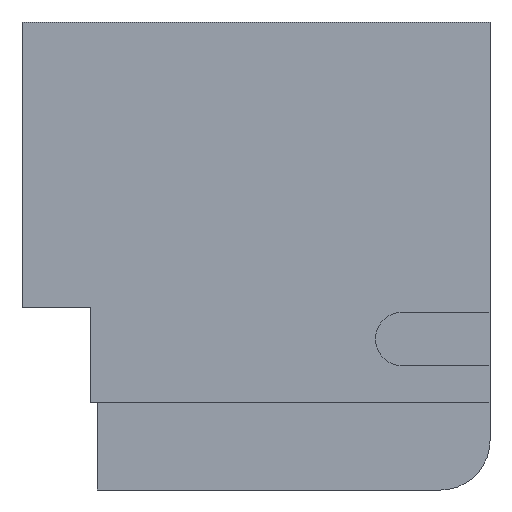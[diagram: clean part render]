
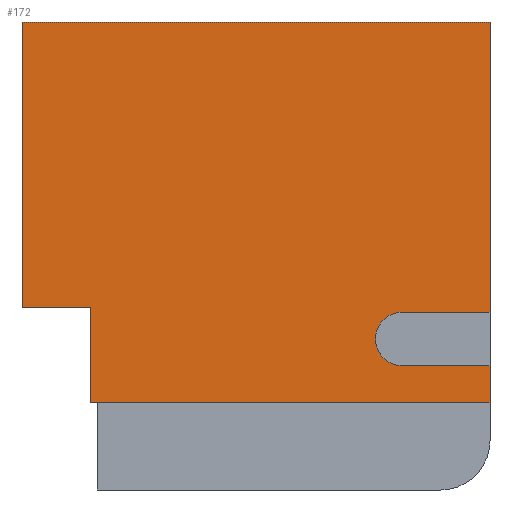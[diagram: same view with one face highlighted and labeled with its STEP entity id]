
A CAD part, front view. The second image highlights one B-rep face of the part: STEP entity #172.
In plain terms, the highlighted planar face has unit normal (0, -1, 0).
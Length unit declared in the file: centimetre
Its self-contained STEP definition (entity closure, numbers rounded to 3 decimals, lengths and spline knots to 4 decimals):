
#9 = CARTESIAN_POINT ( 'NONE',  ( 1000., 0., 1000. ) ) ;
#29 = DIRECTION ( 'NONE',  ( -1., 0., 0. ) ) ;
#31 = DIRECTION ( 'NONE',  ( -1., 0., 0. ) ) ;
#51 = CARTESIAN_POINT ( 'NONE',  ( 1000., 0., 1000. ) ) ;
#53 = CARTESIAN_POINT ( 'NONE',  ( 812.7411, 0., 265.5624 ) ) ;
#85 = CIRCLE ( 'NONE', #229, 57.3614 ) ;
#90 = CARTESIAN_POINT ( 'NONE',  ( 1000., 0., 380.2851 ) ) ;
#94 = ORIENTED_EDGE ( 'NONE', *, *, #981, .T. ) ;
#99 = CARTESIAN_POINT ( 'NONE',  ( 1000., 0., 265.5624 ) ) ;
#100 = PLANE ( 'NONE',  #870 ) ;
#101 = VERTEX_POINT ( 'NONE', #857 ) ;
#115 = LINE ( 'NONE', #812, #355 ) ;
#117 = VECTOR ( 'NONE', #390, 100. ) ;
#125 = CARTESIAN_POINT ( 'NONE',  ( 1000., 0., 380.2851 ) ) ;
#128 = DIRECTION ( 'NONE',  ( 0., -1., 0. ) ) ;
#141 = CARTESIAN_POINT ( 'NONE',  ( 0., 0., 1000. ) ) ;
#155 = VERTEX_POINT ( 'NONE', #526 ) ;
#172 = ADVANCED_FACE ( 'NONE', ( #268 ), #100, .F. ) ;
#189 = DIRECTION ( 'NONE',  ( 0., 1., 0. ) ) ;
#190 = EDGE_CURVE ( 'NONE', #989, #155, #405, .T. ) ;
#213 = DIRECTION ( 'NONE',  ( 0., 0., -1. ) ) ;
#214 = CARTESIAN_POINT ( 'NONE',  ( 0., 0., 1000. ) ) ;
#220 = VERTEX_POINT ( 'NONE', #842 ) ;
#221 = CARTESIAN_POINT ( 'NONE',  ( 1000., 0., 1000. ) ) ;
#223 = VERTEX_POINT ( 'NONE', #999 ) ;
#229 = AXIS2_PLACEMENT_3D ( 'NONE', #838, #128, #556 ) ;
#239 = VECTOR ( 'NONE', #213, 100. ) ;
#242 = EDGE_CURVE ( 'NONE', #760, #223, #1081, .T. ) ;
#268 = FACE_OUTER_BOUND ( 'NONE', #929, .T. ) ;
#295 = DIRECTION ( 'NONE',  ( -1., 0., 0. ) ) ;
#303 = DIRECTION ( 'NONE',  ( 1., 0., 0. ) ) ;
#311 = DIRECTION ( 'NONE',  ( 0., 0., -1. ) ) ;
#355 = VECTOR ( 'NONE', #29, 100. ) ;
#381 = DIRECTION ( 'NONE',  ( 0., 0., -1. ) ) ;
#382 = LINE ( 'NONE', #51, #117 ) ;
#390 = DIRECTION ( 'NONE',  ( 0., 0., -1. ) ) ;
#396 = VECTOR ( 'NONE', #31, 100. ) ;
#405 = LINE ( 'NONE', #141, #239 ) ;
#438 = ORIENTED_EDGE ( 'NONE', *, *, #795, .F. ) ;
#439 = ORIENTED_EDGE ( 'NONE', *, *, #998, .F. ) ;
#457 = CARTESIAN_POINT ( 'NONE',  ( 812.7411, 0., 380.2851 ) ) ;
#466 = VERTEX_POINT ( 'NONE', #53 ) ;
#490 = EDGE_CURVE ( 'NONE', #989, #841, #863, .T. ) ;
#526 = CARTESIAN_POINT ( 'NONE',  ( 0., 0., 390.3615 ) ) ;
#545 = CARTESIAN_POINT ( 'NONE',  ( 812.7411, 0., 265.5624 ) ) ;
#549 = CARTESIAN_POINT ( 'NONE',  ( 146.302, 0., 390.3615 ) ) ;
#556 = DIRECTION ( 'NONE',  ( 0., 0., -1. ) ) ;
#560 = ORIENTED_EDGE ( 'NONE', *, *, #781, .F. ) ;
#597 = VERTEX_POINT ( 'NONE', #90 ) ;
#608 = VECTOR ( 'NONE', #303, 100. ) ;
#614 = CARTESIAN_POINT ( 'NONE',  ( 0., 0., 1000. ) ) ;
#632 = VERTEX_POINT ( 'NONE', #457 ) ;
#649 = ORIENTED_EDGE ( 'NONE', *, *, #490, .F. ) ;
#661 = ORIENTED_EDGE ( 'NONE', *, *, #997, .F. ) ;
#669 = VECTOR ( 'NONE', #311, 100. ) ;
#738 = VECTOR ( 'NONE', #295, 100. ) ;
#760 = VERTEX_POINT ( 'NONE', #99 ) ;
#781 = EDGE_CURVE ( 'NONE', #220, #155, #115, .T. ) ;
#795 = EDGE_CURVE ( 'NONE', #597, #632, #1072, .T. ) ;
#812 = CARTESIAN_POINT ( 'NONE',  ( 146.302, 0., 390.3615 ) ) ;
#838 = CARTESIAN_POINT ( 'NONE',  ( 812.7411, 0., 322.9237 ) ) ;
#841 = VERTEX_POINT ( 'NONE', #9 ) ;
#842 = CARTESIAN_POINT ( 'NONE',  ( 146.302, 0., 390.3615 ) ) ;
#857 = CARTESIAN_POINT ( 'NONE',  ( 146.302, 0., 186.364 ) ) ;
#858 = DIRECTION ( 'NONE',  ( 1., 0., 0. ) ) ;
#863 = LINE ( 'NONE', #1034, #1042 ) ;
#870 = AXIS2_PLACEMENT_3D ( 'NONE', #614, #189, #964 ) ;
#913 = CARTESIAN_POINT ( 'NONE',  ( 1000., 0., 186.364 ) ) ;
#929 = EDGE_LOOP ( 'NONE', ( #94, #1080, #1102, #954, #661, #438, #439, #649, #1121, #560 ) ) ;
#954 = ORIENTED_EDGE ( 'NONE', *, *, #1048, .F. ) ;
#964 = DIRECTION ( 'NONE',  ( 0., 0., 1. ) ) ;
#981 = EDGE_CURVE ( 'NONE', #220, #101, #995, .T. ) ;
#982 = LINE ( 'NONE', #545, #608 ) ;
#989 = VERTEX_POINT ( 'NONE', #214 ) ;
#995 = LINE ( 'NONE', #549, #669 ) ;
#997 = EDGE_CURVE ( 'NONE', #632, #466, #85, .T. ) ;
#998 = EDGE_CURVE ( 'NONE', #841, #597, #382, .T. ) ;
#999 = CARTESIAN_POINT ( 'NONE',  ( 1000., 0., 186.364 ) ) ;
#1030 = EDGE_CURVE ( 'NONE', #223, #101, #1085, .T. ) ;
#1034 = CARTESIAN_POINT ( 'NONE',  ( 0., 0., 1000. ) ) ;
#1036 = VECTOR ( 'NONE', #381, 100. ) ;
#1042 = VECTOR ( 'NONE', #858, 100. ) ;
#1048 = EDGE_CURVE ( 'NONE', #466, #760, #982, .T. ) ;
#1072 = LINE ( 'NONE', #125, #738 ) ;
#1080 = ORIENTED_EDGE ( 'NONE', *, *, #1030, .F. ) ;
#1081 = LINE ( 'NONE', #221, #1036 ) ;
#1085 = LINE ( 'NONE', #913, #396 ) ;
#1102 = ORIENTED_EDGE ( 'NONE', *, *, #242, .F. ) ;
#1121 = ORIENTED_EDGE ( 'NONE', *, *, #190, .T. ) ;
